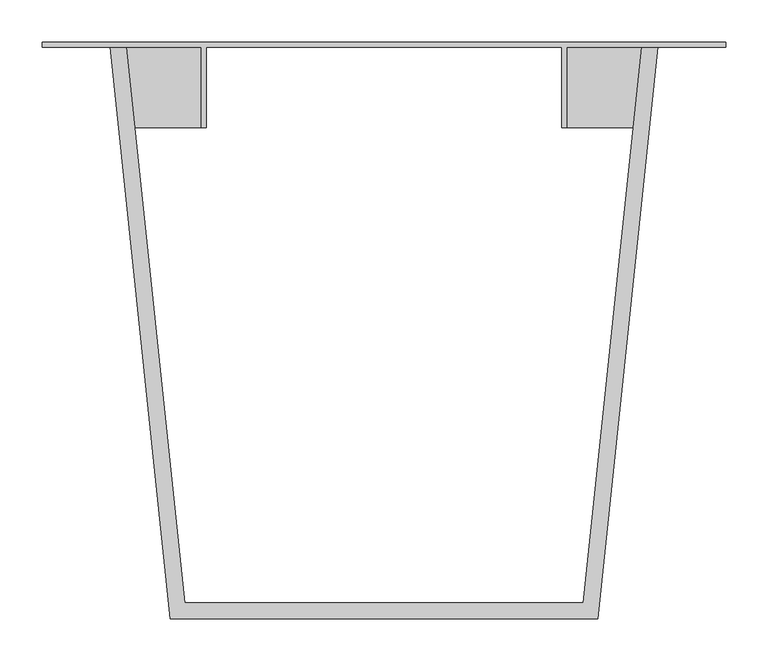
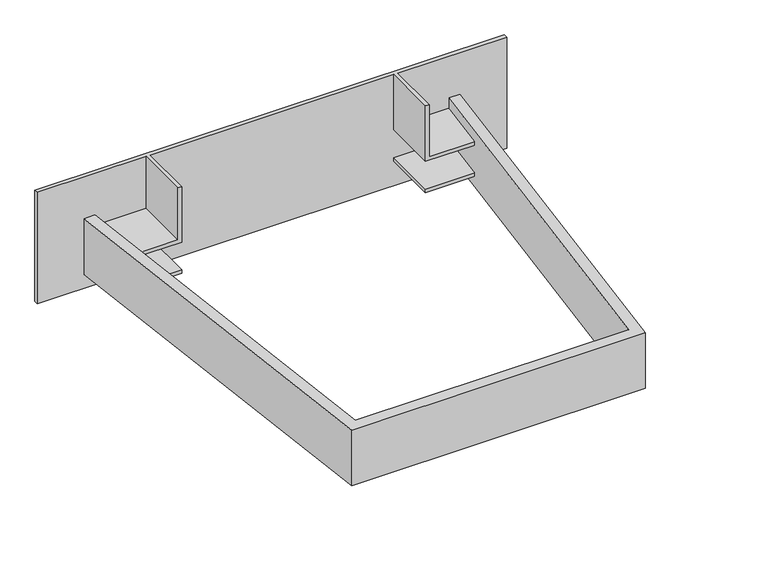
"""IFC4 building model written with IfcOpenShell, lengths in millimetres: proxy geometry, IMPRESS^TABLE 5_ANGLE LOOP BASE-KEEL PLATES."""

from ifc_helpers import new_model, si_unit, origin, place, context, project, spatial, faceted_brep, source, transform, mapped, element, save


def generic_models_41355979(model_context):
    return source(origin(), model_context, "Body", "Brep", [
        faceted_brep([(-152.4, 685.8, -25.4), (-152.4, 685.8, 177.8), (660.4, 685.8, 177.8), (660.4, 685.8, -25.4), (-152.4, 679.45, -25.4), (-152.4, 679.45, 177.8), (-42.2469615, 584.2, 82.55), (-42.2469615, 584.2, 76.2), (42.9918601, 584.2, 76.2), (42.9918601, 584.2, 177.8), (36.6418601, 584.2, 177.8), (36.6418601, 584.2, 82.55), (-52.2581399, 679.45, 76.2), (42.9918601, 679.45, 76.2), (36.6418601, 679.45, 177.8), (36.6418601, 679.45, 82.55), (42.9918601, 679.45, 177.8), (465.0081399, 679.45, 177.8), (465.0081399, 584.2, 177.8), (471.3581399, 584.2, 177.8), (471.3581399, 679.45, 177.8), (660.4, 679.45, 177.8), (-52.2581399, 679.45, 82.55), (-42.2469615, 584.2, 19.05), (-52.2581399, 679.45, 19.05), (42.9918601, 679.45, 19.05), (42.9918601, 584.2, 19.05), (42.9918601, 679.45, 25.4), (42.9918601, 584.2, 25.4), (-52.2581399, 679.45, 25.4), (-42.2469615, 584.2, 25.4), (550.2469615, 584.2, 76.2), (550.2469615, 584.2, 82.55), (471.3581399, 584.2, 82.55), (465.0081399, 584.2, 76.2), (560.2581399, 679.45, 82.55), (471.3581399, 679.45, 82.55), (465.0081399, 679.45, 76.2), (560.2581399, 679.45, 76.2), (550.2469615, 584.2, 25.4), (560.2581399, 679.45, 25.4), (465.0081399, 679.45, 25.4), (465.0081399, 584.2, 25.4), (465.0081399, 679.45, 19.05), (465.0081399, 584.2, 19.05), (560.2581399, 679.45, 19.05), (550.2469615, 584.2, 19.05), (660.4, 679.45, -25.4), (560.2581399, 679.45, 101.6), (579.4130727, 679.45, 101.6), (579.4130727, 679.45, 0.0), (560.2581399, 679.45, 0.0), (-52.2581399, 679.45, 0.0), (-71.4130727, 679.45, 0.0), (-71.4130727, 679.45, 101.6), (-52.2581399, 679.45, 101.6), (508.0, 0.0, 0.0), (508.0, 0.0, 101.6), (0.0, 0.0, 0.0), (0.0, 0.0, 101.6), (17.152697, 19.05, 101.6), (17.152697, 19.05, 0.0), (490.847303, 19.05, 0.0), (490.847303, 19.05, 101.6)], [[[0, 1, 2, 3]], [[1, 0, 4, 5]], [[6, 7, 8, 9, 10, 11]], [[7, 12, 13, 8]], [[14, 15, 11, 10]], [[14, 10, 9, 16, 17, 18, 19, 20, 21, 2, 1, 5]], [[13, 16, 9, 8]], [[22, 6, 11, 15]], [[23, 24, 25, 26]], [[25, 27, 28, 26]], [[29, 30, 28, 27]], [[30, 23, 26, 28]], [[31, 32, 33, 19, 18, 34]], [[32, 35, 36, 33]], [[17, 37, 34, 18]], [[36, 20, 19, 33]], [[38, 31, 34, 37]], [[39, 40, 41, 42]], [[41, 43, 44, 42]], [[45, 46, 44, 43]], [[46, 39, 42, 44]], [[22, 15, 14, 5, 4, 47, 21, 20, 36, 35, 48, 49, 50, 51, 45, 43, 41, 40, 38, 37, 17, 16, 13, 12, 29, 27, 25, 24, 52, 53, 54, 55]], [[47, 4, 0, 3]], [[21, 47, 3, 2]], [[56, 50, 49, 57]], [[58, 56, 57, 59]], [[53, 58, 59, 54]], [[6, 22, 55, 60, 61, 52, 24, 23, 30, 29, 12, 7]], [[62, 61, 60, 63]], [[31, 38, 40, 39, 46, 45, 51, 62, 63, 48, 35, 32]], [[49, 48, 63, 60, 55, 54, 59, 57]], [[51, 50, 56, 58, 53, 52, 61, 62]]]),
    ])


if __name__ == "__main__":
    model = new_model("IFC4")
    model_context = context("Model", 3, world=origin())
    ifc_project = project(units=[si_unit("LENGTHUNIT", "METRE", prefix="MILLI")], contexts=[model_context])
    site = spatial("IfcSite", under=ifc_project)
    building = spatial("IfcBuilding", under=site)
    placement = place(None, origin())
    generic_models_shape = generic_models_41355979(model_context)
    element("IfcBuildingElementProxy", 1, Name="IMPRESS^TABLE 5_ANGLE LOOP BASE-KEEL PLATES", ObjectType="IMPRESS^TABLE 5_ANGLE LOOP BASE-KEEL PLATES", at=placement, inside=building, context=model_context, shape_type="MappedRepresentation", body=[
        mapped(generic_models_shape, transform((0.0, 0.0, 0.0), x_axis=(1.0, 0.0, 0.0), y_axis=(0.0, 1.0, 0.0), z_axis=(0.0, 0.0, 1.0))),
    ])
    save(model, "model.ifc")
